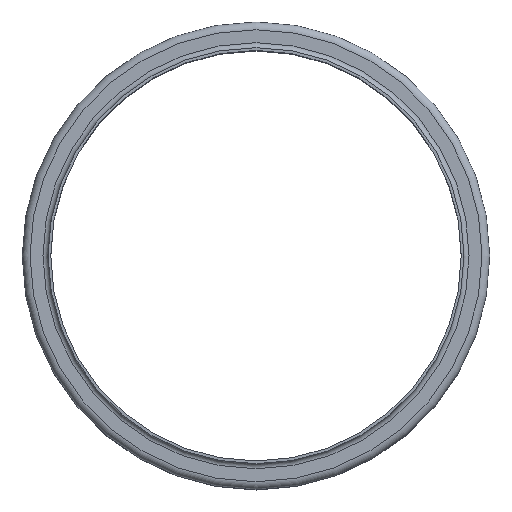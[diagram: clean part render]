
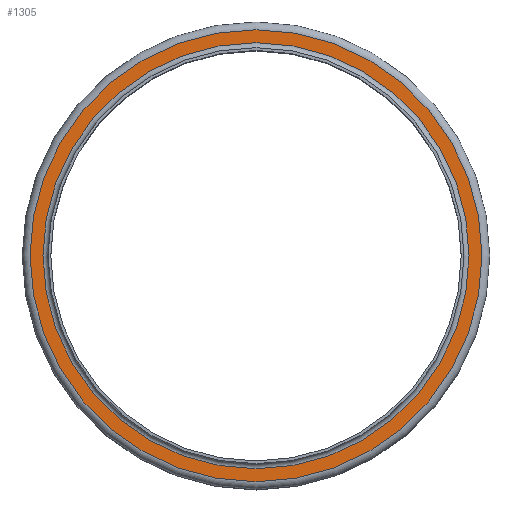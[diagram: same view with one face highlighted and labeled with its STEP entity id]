
A CAD part, top view. The second image highlights one B-rep face of the part: STEP entity #1305.
In plain terms, the highlighted planar face has unit normal (0, 0, 1).
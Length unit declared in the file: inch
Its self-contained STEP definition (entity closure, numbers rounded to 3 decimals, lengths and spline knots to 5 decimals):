
#130=FACE_BOUND('',#384,.T.);
#229=FACE_OUTER_BOUND('',#383,.T.);
#383=EDGE_LOOP('',(#1108));
#384=EDGE_LOOP('',(#1109));
#545=CIRCLE('',#1574,9.34125);
#546=CIRCLE('',#1576,9.90875);
#658=VERTEX_POINT('',#2470);
#659=VERTEX_POINT('',#2474);
#811=EDGE_CURVE('',#658,#658,#545,.T.);
#812=EDGE_CURVE('',#659,#659,#546,.T.);
#1108=ORIENTED_EDGE('',*,*,#812,.F.);
#1109=ORIENTED_EDGE('',*,*,#811,.T.);
#1206=PLANE('',#1575);
#1305=ADVANCED_FACE('',(#229,#130),#1206,.T.);
#1574=AXIS2_PLACEMENT_3D('',#2472,#2070,#2071);
#1575=AXIS2_PLACEMENT_3D('',#2473,#2072,#2073);
#1576=AXIS2_PLACEMENT_3D('',#2475,#2074,#2075);
#2070=DIRECTION('center_axis',(0.,0.,-1.));
#2071=DIRECTION('ref_axis',(1.,0.,0.));
#2072=DIRECTION('center_axis',(0.,0.,1.));
#2073=DIRECTION('ref_axis',(1.,0.,0.));
#2074=DIRECTION('center_axis',(0.,0.,-1.));
#2075=DIRECTION('ref_axis',(1.,0.,0.));
#2470=CARTESIAN_POINT('',(9.34125,0.,-0.22125));
#2472=CARTESIAN_POINT('Origin',(0.,0.,-0.22125));
#2473=CARTESIAN_POINT('Origin',(0.,9.90875,-0.22125));
#2474=CARTESIAN_POINT('',(9.90875,0.,-0.22125));
#2475=CARTESIAN_POINT('Origin',(0.,0.,-0.22125));
